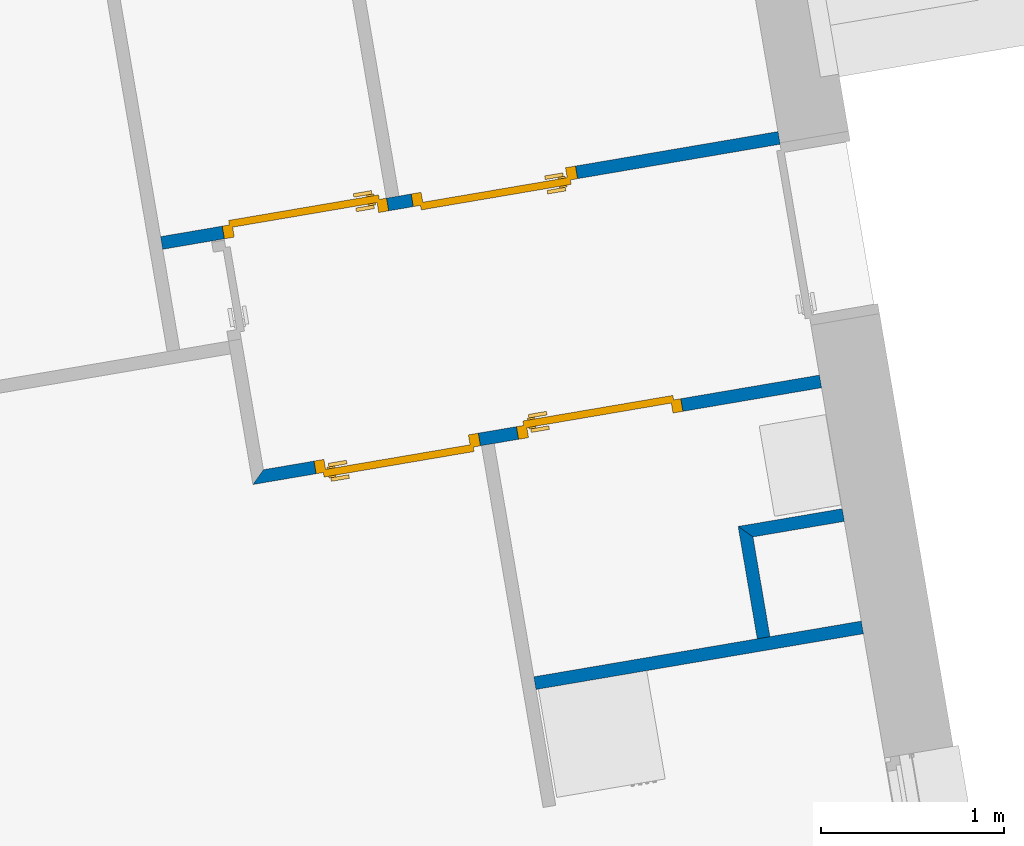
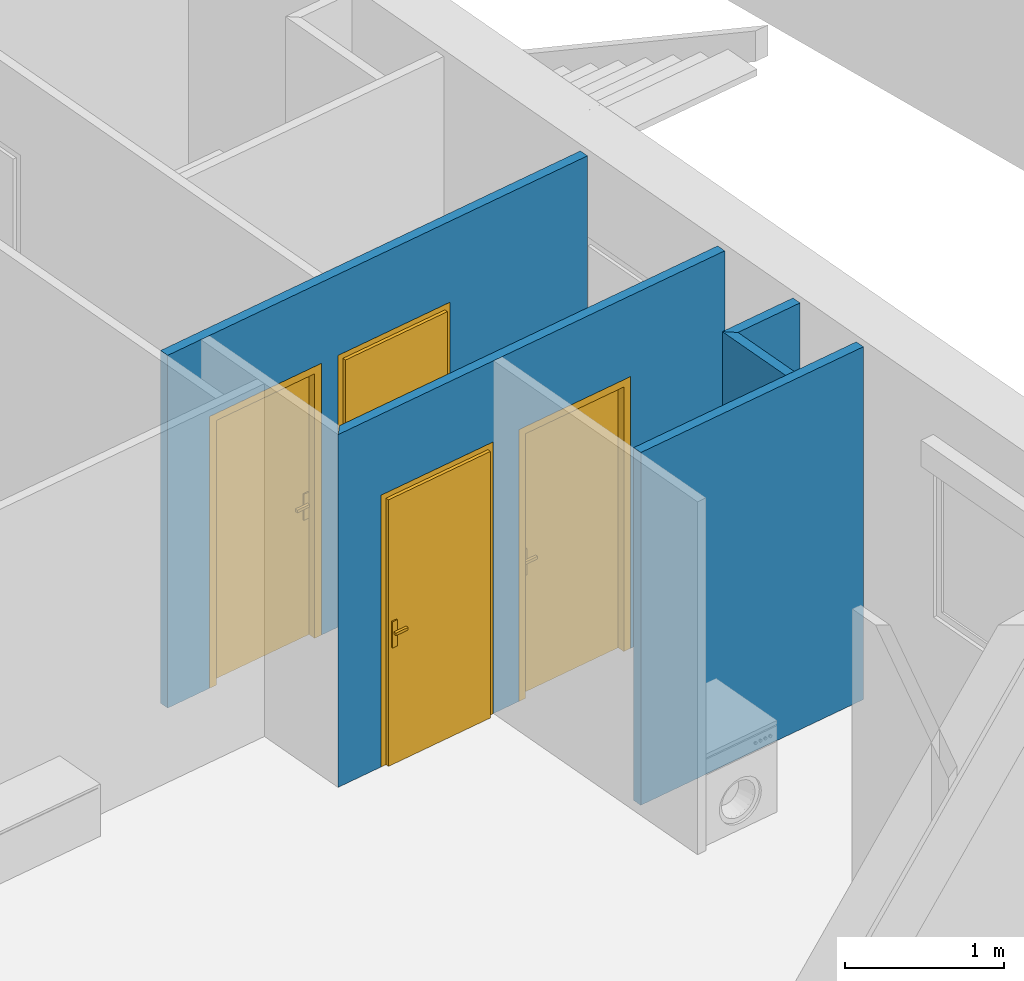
# One storey, part 88 of 195: 5 walls, 4 doors, 4 openings.
"""IFC2X3 building model written with IfcOpenShell, lengths in metres."""

from ifc_helpers import new_model, entity, si_unit, converted_unit, derived_unit, money_unit, direction, frame, origin_with_axes, origin_2d_with_axis, place, context, subcontext, project, spatial, polyline, rectangle, outline, extrude, faceted_brep, source, transform, mapped, material, layer, layer_set, layer_usage, type_object, element, fill, save


model = new_model("IFC2X3")

# Units and contexts
model_context = context("Model", 3, precision=1e-05, world=origin_with_axes(), true_north=direction((0.0, 1.0)))
body_context = subcontext(model_context, "Body", "Model", "MODEL_VIEW")
ifc_project = project(units=[si_unit("LENGTHUNIT", "METRE"), si_unit("AREAUNIT", "SQUARE_METRE"), si_unit("VOLUMEUNIT", "CUBIC_METRE"), converted_unit("PLANEANGLEUNIT", "DEGREE", entity("IfcPlaneAngleMeasure", 0.0174532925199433), si_unit("PLANEANGLEUNIT", "RADIAN"), dimensions=[0, 0, 0, 0, 0, 0, 0]), money_unit("CHF"), converted_unit("TIMEUNIT", "Year", entity("IfcTimeMeasure", 31557600.0), si_unit("TIMEUNIT", "SECOND"), dimensions=[0, 0, 1, 0, 0, 0, 0]), si_unit("MASSUNIT", "GRAM", prefix="KILO"), si_unit("THERMODYNAMICTEMPERATUREUNIT", "DEGREE_CELSIUS"), si_unit("LUMINOUSINTENSITYUNIT", "LUMEN"), si_unit("ENERGYUNIT", "JOULE", prefix="MEGA"), derived_unit("THERMALCONDUCTANCEUNIT", [(si_unit("POWERUNIT", "WATT"), 1), (si_unit("LENGTHUNIT", "METRE"), -1), (si_unit("THERMODYNAMICTEMPERATUREUNIT", "KELVIN"), -1)]), derived_unit("SPECIFICHEATCAPACITYUNIT", [(si_unit("ENERGYUNIT", "JOULE"), 1), (si_unit("MASSUNIT", "GRAM", prefix="KILO"), -1), (si_unit("THERMODYNAMICTEMPERATUREUNIT", "KELVIN"), -1)]), derived_unit("MASSDENSITYUNIT", [(si_unit("MASSUNIT", "GRAM", prefix="KILO"), 1), (si_unit("VOLUMEUNIT", "CUBIC_METRE"), -1)])], contexts=[model_context])

# Site, building, storey
site_placement = place(None, origin_with_axes())
site = spatial("IfcSite", under=ifc_project, at=site_placement, Name="Site", CompositionType="ELEMENT")
building_placement = place(site_placement, origin_with_axes())
building = spatial("IfcBuilding", under=site, at=building_placement, Name="Bâtiment", CompositionType="ELEMENT")
storey_placement = place(building_placement, origin_with_axes())
storey = spatial("IfcBuildingStorey", under=building, at=storey_placement, Name="rdc", CompositionType="ELEMENT", Elevation=0.0)

# Wall
ifc_material = material(Name="Hachure solide 268963992")
ifc_layer = layer(ifc_material, 0.07, ventilated="UNKNOWN")
ifc_layer_set = layer_set([ifc_layer], Name="Cloison 70 0826278243")
ifc_layer_usage_1 = layer_usage(ifc_layer_set, "AXIS2", "NEGATIVE", 0.0)
wall_type = type_object("IfcWallType", Name="Cloison 70 0826278243 70", PredefinedType="NOTDEFINED")
wall_1_placement = place(storey_placement, frame((9587.964489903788, -1030.810171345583, 57.7), z_axis=(0.0, 0.0, 1.0), x_axis=(-0.167752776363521, 0.9858290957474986, 0.0)))
element("IfcWallStandardCase", 1, at=wall_1_placement, inside=storey, type_object=wall_type, material=ifc_layer_usage_1, Name="Mur-149", context=body_context, shape_type="SweptSolid", body=[
    extrude(outline(polyline([(0.0, -0.07000000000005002), (0.5522261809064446, -0.07000000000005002), (0.6222241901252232, 0.0), (0.0, 0.0), (0.0, -0.07000000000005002)])), origin_with_axes(), (0.0, 0.0, 1.0), 2.7),
])

# Wall, openings, doors
ifc_layer_usage_2 = layer_usage(ifc_layer_set, "AXIS2", "NEGATIVE", 0.0)
wall_2_placement = place(storey_placement, frame((9588.463847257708, -1028.046569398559, 57.7), z_axis=(0.0, 0.0, 1.0), x_axis=(-0.9858290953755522, -0.1677527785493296, 0.0)))
wall_2 = element("IfcWallStandardCase", 2, at=wall_2_placement, inside=storey, type_object=wall_type, material=ifc_layer_usage_2, Name="Mur-149", context=body_context, shape_type="SweptSolid", body=[
    extrude(outline(polyline([(0.3799999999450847, -0.0700000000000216), (3.798769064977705, -0.07000000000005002), (3.798769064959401, 0.0), (0.3799999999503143, 0.0), (0.3799999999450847, -0.0700000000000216)])), origin_with_axes(), (0.0, 0.0, 1.0), 2.7),
])
opening_1_placement = place(wall_2_placement, frame((1.956257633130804, 0.0, 0.0), z_axis=(0.0, 0.0, 1.0), x_axis=(1.0, 0.0, 0.0)))
opening_1 = element("IfcOpeningElement", 3, at=opening_1_placement, cuts=wall_2, Name="Por-299", context=body_context, shape_type="SweptSolid", body=[
    extrude(rectangle(XDim=0.9099999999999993, YDim=2.079999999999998, at=origin_2d_with_axis()), frame((0.0, -0.06999999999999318, 1.039999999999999), z_axis=(0.0, 1.0, 0.0), x_axis=(1.0, 0.0, 0.0)), (0.0, 0.0, 1.0), 0.14),
])
opening_2_placement = place(wall_2_placement, frame((3.002404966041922, 0.0, 0.0), z_axis=(0.0, 0.0, 1.0), x_axis=(1.0, 0.0, 0.0)))
opening_2 = element("IfcOpeningElement", 4, at=opening_2_placement, cuts=wall_2, Name="Por-299", context=body_context, shape_type="SweptSolid", body=[
    extrude(rectangle(XDim=0.9099999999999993, YDim=2.079999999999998, at=origin_2d_with_axis()), frame((0.0, 0.06999999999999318, 1.039999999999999), z_axis=(0.0, 1.0, 0.0), x_axis=(1.0, 0.0, 0.0)), (0.0, 0.0, -1.0), 0.14),
])
door_style = type_object("IfcDoorStyle", Name="Porte_1v", ConstructionType="NOTDEFINED", OperationType="NOTDEFINED", ParameterTakesPrecedence=False, Sizeable=False)
shared_shape_1 = source(origin_with_axes(), body_context, "Body", "Brep", [
    faceted_brep([(0.455, 0.0, 0.0), (0.415, 0.0, 0.0), (0.415, 0.0, 2.04), (-0.415, 0.0, 2.04), (-0.415, 0.0, 0.0), (-0.455, 0.0, 0.0), (-0.455, 0.0, 2.08), (0.455, 0.0, 2.08), (0.455, -0.07, 0.0), (0.4, -0.07, 0.0), (0.4, -0.015, 0.0), (0.415, -0.015, 0.0), (0.415, -0.015, 2.04), (-0.415, -0.015, 2.04), (-0.415, -0.015, 0.0), (-0.4, -0.015, 0.0), (-0.4, -0.07, 0.0), (-0.455, -0.07, 0.0), (-0.455, -0.07, 2.08), (0.455, -0.07, 2.08), (-0.4, -0.07, 2.025), (0.4, -0.07, 2.025), (0.4, -0.015, 2.025), (-0.4, -0.015, 2.025)], [[[0, 1, 2, 3, 4, 5, 6, 7]], [[0, 8, 9, 10, 11, 1]], [[1, 11, 12, 2]], [[2, 12, 13, 3]], [[3, 13, 14, 4]], [[5, 4, 14, 15, 16, 17]], [[18, 6, 5, 17]], [[19, 7, 6, 18]], [[8, 0, 7, 19]], [[9, 8, 19, 18, 17, 16, 20, 21]], [[10, 9, 21, 22]], [[11, 10, 22, 23, 15, 14, 13, 12]], [[23, 20, 16, 15]], [[22, 21, 20, 23]]]),
    faceted_brep([(-0.35, -0.015, 0.9), (-0.39, -0.015, 0.9), (-0.39, -0.015, 1.1), (-0.35, -0.015, 1.1), (-0.35, -0.025, 0.9), (-0.39, -0.025, 0.9), (-0.39, -0.025, 1.1), (-0.35, -0.025, 1.1)], [[[0, 1, 2, 3]], [[1, 0, 4, 5]], [[2, 1, 5, 6]], [[3, 2, 6, 7]], [[0, 3, 7, 4]], [[5, 4, 7, 6]]]),
    faceted_brep([(-0.28, -0.025, 1.0), (-0.38, -0.025, 1.0), (-0.38, -0.025, 1.02), (-0.28, -0.025, 1.02), (-0.28, -0.045, 1.0), (-0.38, -0.045, 1.0), (-0.38, -0.045, 1.02), (-0.28, -0.045, 1.02)], [[[0, 1, 2, 3]], [[1, 0, 4, 5]], [[2, 1, 5, 6]], [[3, 2, 6, 7]], [[0, 3, 7, 4]], [[5, 4, 7, 6]]]),
    faceted_brep([(-0.35, 0.035, 0.9), (-0.39, 0.035, 0.9), (-0.39, 0.035, 1.1), (-0.35, 0.035, 1.1), (-0.35, 0.025, 0.9), (-0.39, 0.025, 0.9), (-0.39, 0.025, 1.1), (-0.35, 0.025, 1.1)], [[[0, 1, 2, 3]], [[1, 0, 4, 5]], [[2, 1, 5, 6]], [[3, 2, 6, 7]], [[0, 3, 7, 4]], [[5, 4, 7, 6]]]),
    faceted_brep([(-0.28, 0.05500000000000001, 1.0), (-0.38, 0.05500000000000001, 1.0), (-0.38, 0.05500000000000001, 1.02), (-0.28, 0.05500000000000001, 1.02), (-0.28, 0.035, 1.0), (-0.38, 0.035, 1.0), (-0.38, 0.035, 1.02), (-0.28, 0.035, 1.02)], [[[0, 1, 2, 3]], [[1, 0, 4, 5]], [[2, 1, 5, 6]], [[3, 2, 6, 7]], [[0, 3, 7, 4]], [[5, 4, 7, 6]]]),
    faceted_brep([(-0.415, 0.025, 0.0), (0.415, 0.025, 0.0), (0.415, -0.015, 0.0), (-0.415, -0.015, 0.0), (-0.415, 0.025, 2.04), (0.415, 0.025, 2.04), (0.415, -0.015, 2.04), (-0.415, -0.015, 2.04)], [[[0, 1, 2, 3]], [[0, 4, 5, 1]], [[1, 5, 6, 2]], [[3, 2, 6, 7]], [[4, 0, 3, 7]], [[5, 4, 7, 6]]]),
])
door_1_placement = place(opening_1_placement, frame((-0.4149999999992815, 0.0, 0.0), z_axis=(0.0, 0.0, 1.0), x_axis=(1.0, 0.0, 0.0)))
door_1 = element("IfcDoor", 5, at=door_1_placement, inside=storey, type_object=door_style, Name="Por-299", OverallHeight=2.04, OverallWidth=0.83, context=body_context, shape_type="MappedRepresentation", body=[
    mapped(shared_shape_1, transform((0.4149999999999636, 0.0, 0.0))),
])
fill(opening_1, door_1)
shared_shape_2 = source(origin_with_axes(), body_context, "Body", "Brep", [
    faceted_brep([(-0.455, 0.0, 0.0), (-0.455, 0.0, 2.08), (0.455, 0.0, 2.08), (0.455, 0.0, 0.0), (0.415, 0.0, 0.0), (0.415, 0.0, 2.04), (-0.415, 0.0, 2.04), (-0.415, 0.0, 0.0), (-0.455, -0.07, 0.0), (-0.455, -0.07, 2.08), (0.455, -0.07, 2.08), (0.455, -0.07, 0.0), (0.4, -0.07, 0.0), (0.4, -0.015, 0.0), (0.415, -0.015, 0.0), (0.415, -0.015, 2.04), (-0.415, -0.015, 2.04), (-0.415, -0.015, 0.0), (-0.4, -0.015, 0.0), (-0.4, -0.07, 0.0), (-0.4, -0.07, 2.025), (0.4, -0.07, 2.025), (0.4, -0.015, 2.025), (-0.4, -0.015, 2.025)], [[[0, 1, 2, 3, 4, 5, 6, 7]], [[8, 9, 1, 0]], [[9, 10, 2, 1]], [[10, 11, 3, 2]], [[3, 11, 12, 13, 14, 4]], [[5, 4, 14, 15]], [[6, 5, 15, 16]], [[7, 6, 16, 17]], [[0, 7, 17, 18, 19, 8]], [[19, 20, 21, 12, 11, 10, 9, 8]], [[22, 13, 12, 21]], [[17, 16, 15, 14, 13, 22, 23, 18]], [[18, 23, 20, 19]], [[23, 22, 21, 20]]]),
    faceted_brep([(0.35, -0.015, 0.9), (0.35, -0.015, 1.1), (0.39, -0.015, 1.1), (0.39, -0.015, 0.9), (0.35, -0.025, 0.9), (0.35, -0.025, 1.1), (0.39, -0.025, 1.1), (0.39, -0.025, 0.9)], [[[0, 1, 2, 3]], [[0, 4, 5, 1]], [[1, 5, 6, 2]], [[2, 6, 7, 3]], [[3, 7, 4, 0]], [[7, 6, 5, 4]]]),
    faceted_brep([(0.28, -0.025, 1.0), (0.28, -0.025, 1.02), (0.38, -0.025, 1.02), (0.38, -0.025, 1.0), (0.28, -0.045, 1.0), (0.28, -0.045, 1.02), (0.38, -0.045, 1.02), (0.38, -0.045, 1.0)], [[[0, 1, 2, 3]], [[0, 4, 5, 1]], [[1, 5, 6, 2]], [[2, 6, 7, 3]], [[3, 7, 4, 0]], [[7, 6, 5, 4]]]),
    faceted_brep([(0.35, 0.035, 0.9), (0.35, 0.035, 1.1), (0.39, 0.035, 1.1), (0.39, 0.035, 0.9), (0.35, 0.025, 0.9), (0.35, 0.025, 1.1), (0.39, 0.025, 1.1), (0.39, 0.025, 0.9)], [[[0, 1, 2, 3]], [[0, 4, 5, 1]], [[1, 5, 6, 2]], [[2, 6, 7, 3]], [[3, 7, 4, 0]], [[7, 6, 5, 4]]]),
    faceted_brep([(0.28, 0.05500000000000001, 1.0), (0.28, 0.05500000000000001, 1.02), (0.38, 0.05500000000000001, 1.02), (0.38, 0.05500000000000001, 1.0), (0.28, 0.035, 1.0), (0.28, 0.035, 1.02), (0.38, 0.035, 1.02), (0.38, 0.035, 1.0)], [[[0, 1, 2, 3]], [[0, 4, 5, 1]], [[1, 5, 6, 2]], [[2, 6, 7, 3]], [[3, 7, 4, 0]], [[7, 6, 5, 4]]]),
    faceted_brep([(0.415, 0.025, 0.0), (0.415, -0.015, 0.0), (-0.415, -0.015, 0.0), (-0.415, 0.025, 0.0), (0.415, 0.025, 2.04), (0.415, -0.015, 2.04), (-0.415, -0.015, 2.04), (-0.415, 0.025, 2.04)], [[[0, 1, 2, 3]], [[4, 5, 1, 0]], [[1, 5, 6, 2]], [[3, 2, 6, 7]], [[0, 3, 7, 4]], [[7, 6, 5, 4]]]),
])
door_2_placement = place(opening_2_placement, frame((0.4150000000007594, 0.0, 0.0), z_axis=(0.0, 0.0, 1.0), x_axis=(-1.0, 0.0, 0.0)))
door_2 = element("IfcDoor", 6, at=door_2_placement, inside=storey, type_object=door_style, Name="Por-299", OverallHeight=2.04, OverallWidth=0.83, context=body_context, shape_type="MappedRepresentation", body=[
    mapped(shared_shape_2, transform((0.4149999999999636, 0.06999999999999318, 0.0))),
])
fill(opening_2, door_2)

# Wall
ifc_layer_usage_3 = layer_usage(ifc_layer_set, "AXIS2", "POSITIVE", 0.0)
wall_3_placement = place(storey_placement, frame((9586.756585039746, -1031.086719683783, 57.7), z_axis=(0.0, 0.0, 1.0), x_axis=(0.985829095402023, 0.1677527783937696, 0.0)))
element("IfcWallStandardCase", 7, at=wall_3_placement, inside=storey, type_object=wall_type, material=ifc_layer_usage_3, Name="Mur-149", context=body_context, shape_type="SweptSolid", body=[
    extrude(outline(polyline([(0.0, 0.0), (1.813062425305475, 0.0), (1.81306242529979, 0.06999999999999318), (0.0, 0.06999999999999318), (0.0, 0.0)])), origin_with_axes(), (0.0, 0.0, 1.0), 2.7),
])

# Wall, openings, doors
ifc_layer_usage_4 = layer_usage(ifc_layer_set, "AXIS2", "POSITIVE", 0.0)
wall_4_placement = place(storey_placement, frame((9585.211298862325, -1029.96792191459, 57.7), z_axis=(0.0, 0.0, 1.0), x_axis=(0.9858290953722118, 0.1677527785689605, 0.0)))
wall_4 = element("IfcWallStandardCase", 8, at=wall_4_placement, inside=storey, type_object=wall_type, material=ifc_layer_usage_4, Name="Mur-149", context=body_context, shape_type="SweptSolid", body=[
    extrude(outline(polyline([(2.249862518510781e-10, 0.0), (3.148769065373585, 0.0), (3.148769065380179, 0.06999999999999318), (0.0700000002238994, 0.06999999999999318), (2.249862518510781e-10, 0.0)])), origin_with_axes(), (0.0, 0.0, 1.0), 2.7),
])
opening_3_placement = place(wall_4_placement, frame((0.8050034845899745, 0.0, 0.0), z_axis=(0.0, 0.0, 1.0), x_axis=(1.0, 0.0, 0.0)))
opening_3 = element("IfcOpeningElement", 9, at=opening_3_placement, cuts=wall_4, Name="Por-299", context=body_context, shape_type="SweptSolid", body=[
    extrude(rectangle(XDim=0.9099999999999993, YDim=2.079999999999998, at=origin_2d_with_axis()), frame((0.0, 0.06999999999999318, 1.039999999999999), z_axis=(0.0, 1.0, 0.0), x_axis=(1.0, 0.0, 0.0)), (0.0, 0.0, -1.0), 0.14),
])
opening_4_placement = place(wall_4_placement, frame((1.926126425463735, 0.0, 0.0), z_axis=(0.0, 0.0, 1.0), x_axis=(1.0, 0.0, 0.0)))
opening_4 = element("IfcOpeningElement", 10, at=opening_4_placement, cuts=wall_4, Name="Por-299", context=body_context, shape_type="SweptSolid", body=[
    extrude(rectangle(XDim=0.9099999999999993, YDim=2.079999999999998, at=origin_2d_with_axis()), frame((0.0, -0.06999999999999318, 1.039999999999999), z_axis=(0.0, 1.0, 0.0), x_axis=(1.0, 0.0, 0.0)), (0.0, 0.0, 1.0), 0.14),
])
door_3_placement = place(opening_4_placement, frame((-0.4150000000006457, 0.0, 0.0), z_axis=(0.0, 0.0, 1.0), x_axis=(1.0, 0.0, 0.0)))
door_3 = element("IfcDoor", 11, at=door_3_placement, inside=storey, type_object=door_style, Name="Por-299", OverallHeight=2.04, OverallWidth=0.83, context=body_context, shape_type="MappedRepresentation", body=[
    mapped(shared_shape_1, transform((0.4150000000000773, 0.06999999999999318, 0.0))),
])
fill(opening_4, door_3)
door_4_placement = place(opening_3_placement, frame((0.4149999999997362, 0.0, 0.0), z_axis=(0.0, 0.0, 1.0), x_axis=(-1.0, 0.0, 0.0)))
door_4 = element("IfcDoor", 12, at=door_4_placement, inside=storey, type_object=door_style, Name="Por-299", OverallHeight=2.04, OverallWidth=0.83, context=body_context, shape_type="MappedRepresentation", body=[
    mapped(shared_shape_2, transform((0.4150000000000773, 0.0, 0.0))),
])
fill(opening_3, door_4)

# Wall
ifc_layer_usage_5 = layer_usage(ifc_layer_set, "AXIS2", "POSITIVE", 0.0)
wall_5_placement = place(storey_placement, frame((9587.871852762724, -1030.26577267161, 57.7), z_axis=(0.0, 0.0, 1.0), x_axis=(0.985824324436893, 0.1677808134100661, 0.0)))
element("IfcWallStandardCase", 13, at=wall_5_placement, inside=storey, type_object=wall_type, material=ifc_layer_usage_5, Name="Mur-149", context=body_context, shape_type="SweptSolid", body=[
    extrude(outline(polyline([(0.07000000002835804, 0.0), (0.575882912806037, 0.0), (0.5758849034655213, 0.06999999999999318), (1.990809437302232e-06, 0.06999999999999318), (0.07000000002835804, 0.0)])), origin_with_axes(), (0.0, 0.0, 1.0), 2.7),
])

save(model, "model.ifc")
